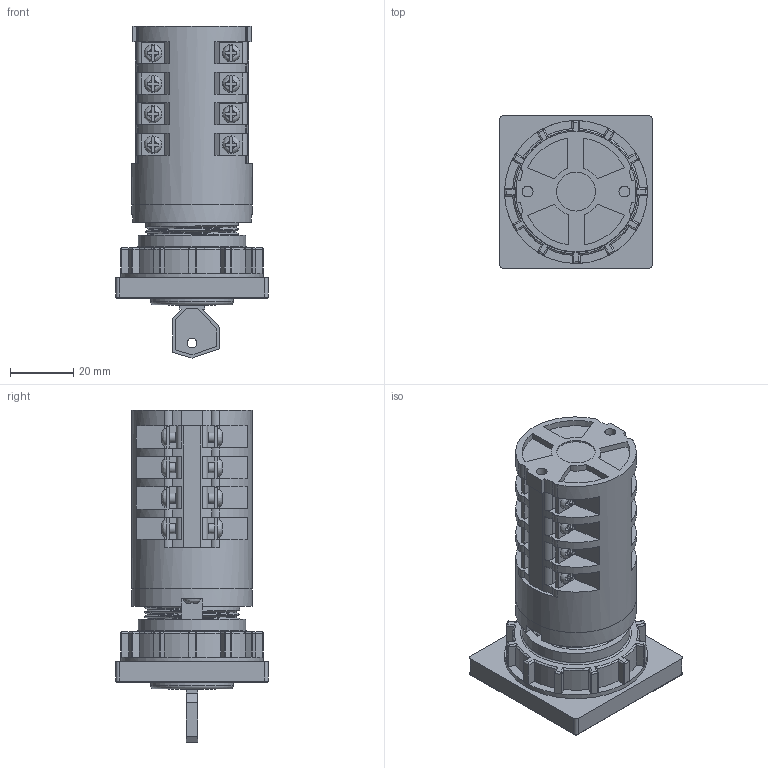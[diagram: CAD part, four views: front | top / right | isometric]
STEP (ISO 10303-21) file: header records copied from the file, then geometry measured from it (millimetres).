
FILE_DESCRIPTION(/* description */ (''),/* implementation_level */ '2;1');
FILE_NAME(/* name */ '4G10-U_wykonanie_S30_4_korpusy.stp',/* time_stamp */ '2021-07-21T08:52:52+02:00',/* author */ (''),/* organization */ (''),/* preprocessor_version */ 'ST-DEVELOPER v18.1',/* originating_system */ 'SIEMENS PLM Software NX 1965',/* authorisation */ '');
FILE_SCHEMA (('AUTOMOTIVE_DESIGN { 1 0 10303 214 3 1 1 1 }'));
Length unit declared in the file: millimetre
Products named in the file (1): 4G10-U_wykonanie_S30_4_korpusy_stp
Bounding box: 48 x 48 x 104.62 mm (x, y, z)
Volume: 95403.1 mm3; surface area: 25023.1 mm2
Topology: 1 solids, 3 shells, 861 faces, 2304 edges, 1474 vertices
Faces by surface type: plane 601, cylinder 189, bspline 55, torus 16
Full cylindrical faces by diameter (mm): 3 x1, 3.2 x18, 3.3 x2, 3.4 x2, 12.3 x1, 15 x1, 26 x1, 34 x1, 38 x2, 45 x1
Entity records: 32400 total; most frequent: CARTESIAN_POINT 11550, ORIENTED_EDGE 4416, DIRECTION 4150, EDGE_CURVE 2208, VERTEX_POINT 1452, AXIS2_PLACEMENT_3D 1416, LINE 1318, VECTOR 1318
